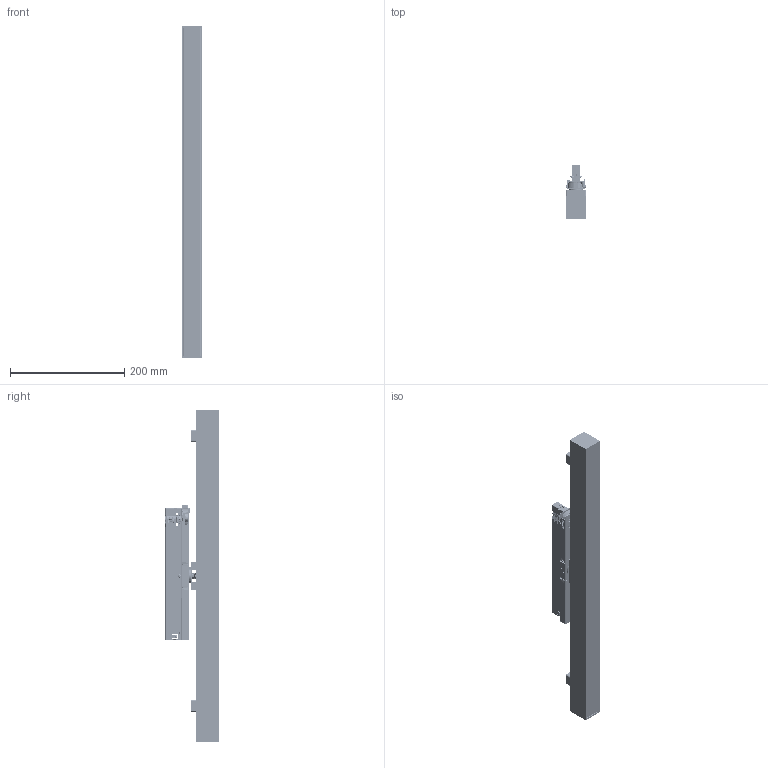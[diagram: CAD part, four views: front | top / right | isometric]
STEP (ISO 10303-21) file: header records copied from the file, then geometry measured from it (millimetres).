
FILE_DESCRIPTION(/* description */ (''),/* implementation_level */ '2;1');
FILE_NAME(/* name */ 'C:\Users\quotes\OneDrive - M LIGHT PTY LTD\Documents\Inventor\Projects\Mlight Projects Team\ENGINEERING - CAD\Favors\Akhila\Track Step File\Pico 2B\mLight Pico 2B 580mm Track Module_Simplify_1.stp',/* time_stamp */ '2024-06-03T17:15:21+10:00',/* author */ ('quotes'),/* organization */ (''),/* preprocessor_version */ 'ST-DEVELOPER v18.1',/* originating_system */ 'Autodesk Inventor 2022',/* authorisation */ '');
FILE_SCHEMA (('AUTOMOTIVE_DESIGN { 1 0 10303 214 3 1 1 }'));
Products named in the file (1): mLight Pico 2B 580mm Track Module_Simplify_1
Bounding box: 35.2 x 94.72 x 580 mm (x, y, z)
Volume: 136240.5 mm3; surface area: 377835 mm2
Topology: 13 solids, 115 shells, 11694 faces, 32704 edges, 21083 vertices
Faces by surface type: plane 6322, cylinder 3113, bspline 1506, torus 287, cone 271, sphere 195
Full cylindrical faces by diameter (mm): 0.376 x3, 0.843 x2, 0.85 x6, 1.414 x4, 1.478 x2, 1.5 x1, 1.7 x4, 1.97 x2, 2 x7, 2.167 x4, 2.463 x2, 2.5 x2, 2.8 x5, 2.956 x3, 3 x5, 3.2 x1, 3.3 x2, 3.5 x2, 3.972 x2, 4 x7, 5.2 x1, 5.6 x1, 6 x1, 6.8 x1, 7.8 x3, 8.8 x1, 10 x3, 13.4 x1, 13.9 x1, 20.3 x1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
Entity records: 647978 total; most frequent: CARTESIAN_POINT 354994, ORIENTED_EDGE 65022, DIRECTION 55977, EDGE_CURVE 32623, VERTEX_POINT 21075, LINE 20499, VECTOR 20499, AXIS2_PLACEMENT_3D 17739
